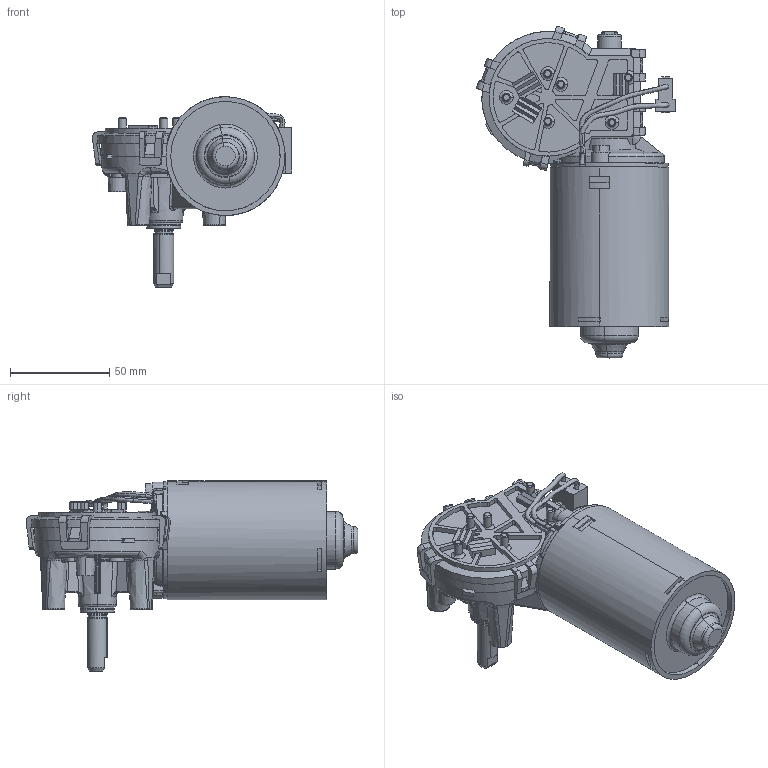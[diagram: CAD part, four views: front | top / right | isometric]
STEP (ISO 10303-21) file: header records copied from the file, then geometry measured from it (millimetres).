
FILE_DESCRIPTION(/* description */ (''),/* implementation_level */ '2;1');
FILE_NAME(/* name */ 'F006B20100.stp',/* time_stamp */ '2013-02-02T12:52:39+05:00',/* author */ (''),/* organization */ (''),/* preprocessor_version */ 'ST-DEVELOPER v11',/* originating_system */ 'SIEMENS PLM Software NX 7.5',/* authorisation */ '');
FILE_SCHEMA (('AUTOMOTIVE_DESIGN { 1 0 10303 214 1 1 1 1 }'));
Products named in the file (1): eas295DAkuzd
Bounding box: 100.2 x 166.91 x 95.92 mm (x, y, z)
Volume: 355551 mm3; surface area: 58185.5 mm2
Topology: 1 solids, 4 shells, 1366 faces, 3786 edges, 2384 vertices
Faces by surface type: plane 530, bspline 319, cylinder 289, cone 116, torus 100, extrusion 9, revolution 3
Full cylindrical faces by diameter (mm): 3.3 x1
Entity records: 64566 total; most frequent: CARTESIAN_POINT 33062, ORIENTED_EDGE 7480, DIRECTION 5241, EDGE_CURVE 3740, VERTEX_POINT 2381, AXIS2_PLACEMENT_3D 1893, VECTOR 1452, LINE 1443
